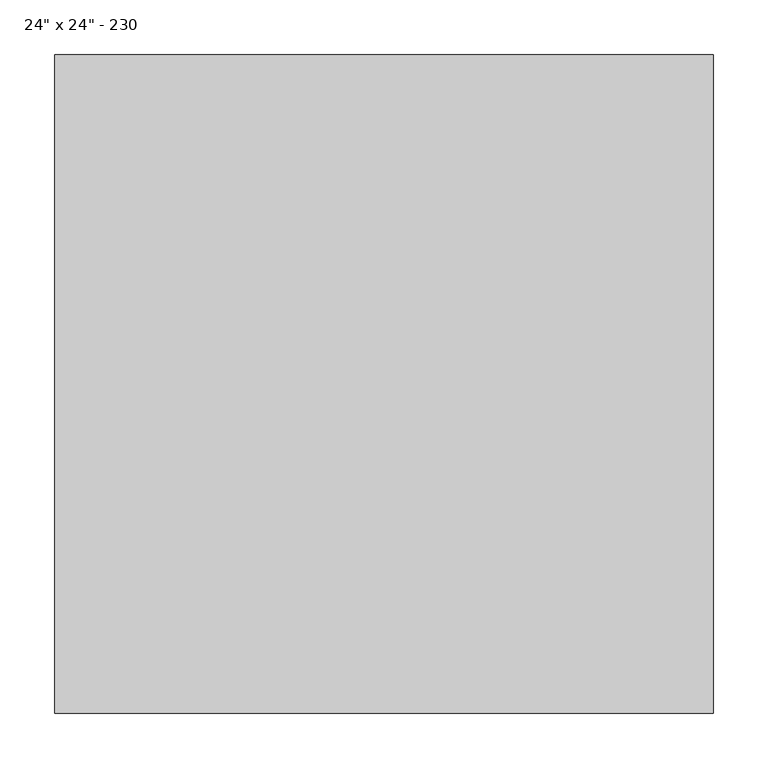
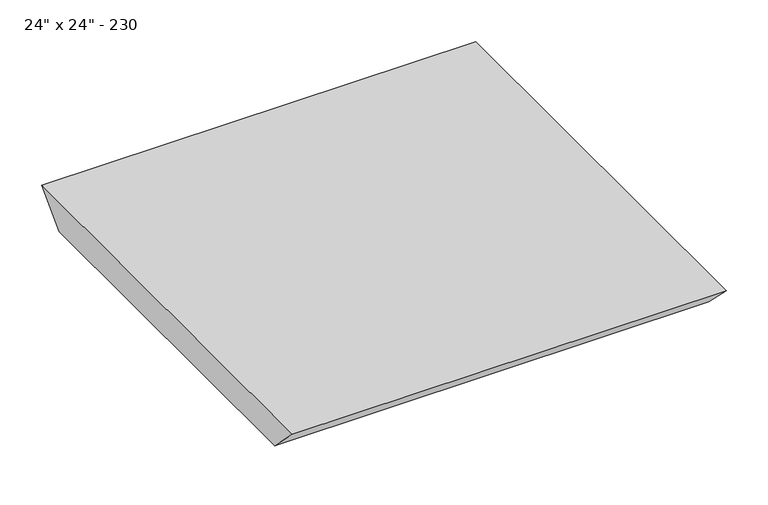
"""IFC4 building model written with IfcOpenShell, lengths in millimetres: light fixture geometry."""

import ifcopenshell
import ifcopenshell.guid

model = None  # the IFC model being written
_history = None  # IfcOwnerHistory: only IFC2X3 demands one
_inside = {}  # id of a spatial element -> (the spatial element, [elements in it])
_under = {}  # id of a project, library or spatial element -> (it, [spatial elements below it])
_declared = {}  # id of a project -> (the project, [libraries it declares])
_typed = {}  # id of a type object -> (the type object, [elements of that type])
_made_of = {}  # id of a material, layer set ... -> (it, [elements and type objects made of it])


def new_model(schema):
    """Start an empty IFC model of exactly this schema.

    Asked for "IFC4X3", IfcOpenShell would pick the latest addendum, in which some entities
    have other attributes; the version numbers below select the first issue.
    IFC2X3 requires an IfcOwnerHistory on every rooted entity: one is made here for all.
    """
    global model, _history
    if schema == "IFC4X3":
        model = ifcopenshell.file(schema_version=(4, 3, 0, 0))
    else:
        model = ifcopenshell.file(schema=schema)
    _inside.clear()
    _under.clear()
    _declared.clear()
    _typed.clear()
    _made_of.clear()
    _history = None
    if model.schema == "IFC2X3":
        org = make("IfcOrganization", Name="unknown")
        user = make(
            "IfcPersonAndOrganization",
            ThePerson=make("IfcPerson", FamilyName="unknown"),
            TheOrganization=org,
        )
        app = make(
            "IfcApplication",
            ApplicationDeveloper=org,
            Version="unknown",
            ApplicationFullName="unknown",
            ApplicationIdentifier="unknown",
        )
        _history = make(
            "IfcOwnerHistory",
            OwningUser=user,
            OwningApplication=app,
            ChangeAction="ADDED",
            CreationDate=0,
        )
    return model


def make(cls, **values):
    """One entity of the class cls with the attributes given. An attribute that is None is left unset."""
    return model.create_entity(
        cls, **{name: value for name, value in values.items() if value is not None}
    )


def rooted(cls, **values):
    """An entity with a GlobalId (a new one), such as an element, a storey or a relation."""
    return make(cls, GlobalId=ifcopenshell.guid.new(), OwnerHistory=_history, **values)


def si_unit(unit_type, name, prefix=None):
    """IfcSIUnit, for example si_unit("LENGTHUNIT", "METRE", prefix="MILLI")."""
    return make("IfcSIUnit", UnitType=unit_type, Prefix=prefix, Name=name)


def assignment(units):
    """IfcUnitAssignment: the units of a project."""
    return None if units is None else make("IfcUnitAssignment", Units=units)


def point(xyz):
    """IfcCartesianPoint."""
    return None if xyz is None else make("IfcCartesianPoint", Coordinates=xyz)


def direction(xyz):
    """IfcDirection."""
    return None if xyz is None else make("IfcDirection", DirectionRatios=xyz)


def frame(location, z_axis=None, x_axis=None):
    """IfcAxis2Placement3D, a coordinate frame: its origin and axes. An axis left out is left unset."""
    return make(
        "IfcAxis2Placement3D",
        Location=point(location),
        Axis=direction(z_axis),
        RefDirection=direction(x_axis),
    )


def origin():
    """The frame at (0, 0, 0) with its axes left unset."""
    return frame((0.0, 0.0, 0.0))


def place(relative_to, where):
    """IfcLocalPlacement: puts the frame where relative to a parent placement (None: the world)."""
    return make(
        "IfcLocalPlacement", PlacementRelTo=relative_to, RelativePlacement=where
    )


def context(
    kind, dimensions, precision=None, world=None, true_north=None, identifier=None
):
    """IfcGeometricRepresentationContext, for example the 3D "Model" context."""
    return make(
        "IfcGeometricRepresentationContext",
        ContextIdentifier=identifier,
        ContextType=kind,
        CoordinateSpaceDimension=dimensions,
        Precision=precision,
        WorldCoordinateSystem=world,
        TrueNorth=true_north,
    )


def project(units=None, contexts=None):
    """IfcProject with its units and contexts."""
    return rooted(
        "IfcProject",
        Name="project",
        RepresentationContexts=contexts,
        UnitsInContext=assignment(units),
    )


def spatial(cls, under=None, at=None, **own):
    """A site, building, storey or space (cls), placed at a placement, below another one or the project."""
    s = rooted(cls, ObjectPlacement=at, **own)
    if under is not None:
        _under.setdefault(under.id(), (under, []))[1].append(s)
    return s


def polyline(points):
    """IfcPolyline through the points."""
    return make("IfcPolyline", Points=[point(p) for p in points])


def outline(outer, holes=None, kind="AREA"):
    """IfcArbitraryClosedProfileDef: a profile drawn as a closed curve; with holes, ...WithVoids."""
    if holes is None:
        return make("IfcArbitraryClosedProfileDef", ProfileType=kind, OuterCurve=outer)
    return make(
        "IfcArbitraryProfileDefWithVoids",
        ProfileType=kind,
        OuterCurve=outer,
        InnerCurves=holes,
    )


def extrude(swept, where, along, depth):
    """IfcExtrudedAreaSolid: the profile swept, set in the frame where, extruded along a direction by depth."""
    return make(
        "IfcExtrudedAreaSolid",
        SweptArea=swept,
        Position=where,
        ExtrudedDirection=direction(along),
        Depth=depth,
    )


def shape(context_of_items, identifier, shape_type, items):
    """IfcShapeRepresentation: the items that make up one representation, for example the "Body"."""
    return make(
        "IfcShapeRepresentation",
        ContextOfItems=context_of_items,
        RepresentationIdentifier=identifier,
        RepresentationType=shape_type,
        Items=items,
    )


def source(mapping_origin, context_of_items, identifier, shape_type, items):
    """IfcRepresentationMap: a shape defined once, which mapped items show again and again."""
    return make(
        "IfcRepresentationMap",
        MappingOrigin=mapping_origin,
        MappedRepresentation=shape(context_of_items, identifier, shape_type, items),
    )


def transform(
    local_origin,
    x_axis=None,
    y_axis=None,
    z_axis=None,
    scale=None,
    scale2=None,
    scale3=None,
    uniform=True,
):
    """IfcCartesianTransformationOperator3D, or its non-uniform kind. x_axis, y_axis, z_axis: its Axis1, 2, 3."""
    if uniform:
        return make(
            "IfcCartesianTransformationOperator3D",
            Axis1=direction(x_axis),
            Axis2=direction(y_axis),
            LocalOrigin=point(local_origin),
            Scale=scale,
            Axis3=direction(z_axis),
        )
    return make(
        "IfcCartesianTransformationOperator3DnonUniform",
        Axis1=direction(x_axis),
        Axis2=direction(y_axis),
        LocalOrigin=point(local_origin),
        Scale=scale,
        Axis3=direction(z_axis),
        Scale2=scale2,
        Scale3=scale3,
    )


def mapped(mapping_source, mapping_target):
    """IfcMappedItem: shows the shape of a source again, moved by a transform."""
    return make(
        "IfcMappedItem", MappingSource=mapping_source, MappingTarget=mapping_target
    )


def made_of(thing, what):
    """Note that an element or type object is made of a material, layer set ...; save() writes the relation."""
    if what is not None:
        _made_of.setdefault(what.id(), (what, []))[1].append(thing)
    return thing


def element(
    cls,
    number,
    at=None,
    inside=None,
    cuts=None,
    type_object=None,
    material=None,
    context=None,
    identifier="Body",
    shape_type=None,
    held_by="IfcProductDefinitionShape",
    body=None,
    shapes=None,
    **own,
):
    """One element of the class cls, such as IfcWall. Its Tag is "e" and its number.

    at: its placement. inside: the storey or other place that contains it. cuts: it is an
    opening in that element (IfcRelVoidsElement). A single representation is given by context,
    identifier, shape_type and body (its items); several are given by shapes. held_by: the class
    of the entity that holds the representations. save() writes the other relations.
    """
    e = rooted(cls, Tag="e%d" % number, ObjectPlacement=at, **own)
    if body is not None:
        shapes = [shape(context, identifier, shape_type, body)]
    if shapes is not None:
        e.Representation = make(held_by, Representations=shapes)
    if inside is not None:
        _inside.setdefault(inside.id(), (inside, []))[1].append(e)
    if cuts is not None:
        rooted(
            "IfcRelVoidsElement", RelatingBuildingElement=cuts, RelatedOpeningElement=e
        )
    if type_object is not None:
        _typed.setdefault(type_object.id(), (type_object, []))[1].append(e)
    return made_of(e, material)


def aggregate(whole, parts):
    """IfcRelAggregates: a whole, such as a stair, and the parts it consists of."""
    return rooted("IfcRelAggregates", RelatingObject=whole, RelatedObjects=parts)


def save(model, path):
    """Write the relations noted so far, then the file.

    IfcRelAggregates (storeys below a building ...), IfcRelContainedInSpatialStructure (elements
    in a storey), IfcRelDefinesByType, IfcRelAssociatesMaterial and IfcRelDeclares: one each for
    every whole, place, type object, material and project.
    """
    for whole, parts in _under.values():
        aggregate(whole, parts)
    for where, things in _inside.values():
        rooted(
            "IfcRelContainedInSpatialStructure",
            RelatedElements=things,
            RelatingStructure=where,
        )
    for kind, things in _typed.values():
        rooted("IfcRelDefinesByType", RelatedObjects=things, RelatingType=kind)
    for what, things in _made_of.values():
        rooted("IfcRelAssociatesMaterial", RelatedObjects=things, RelatingMaterial=what)
    for by, libraries in _declared.values():
        rooted("IfcRelDeclares", RelatingContext=by, RelatedDefinitions=libraries)
    model.write(path)


def light_fixture_1c7c1157(model_context):
    return source(origin(), model_context, "Body", "SweptSolid", [
        extrude(outline(polyline([(-600.0, 0.0), (0.0, 0.0), (-42.0, -42.0), (-558.0, -42.0), (-600.0, 0.0)])), frame((0.0, 0.0, 0.0), z_axis=(1.0, 0.0, 0.0), x_axis=(0.0, 1.0, 0.0)), (0.0, 0.0, 1.0), 600.0),
    ])


if __name__ == "__main__":
    model = new_model("IFC4")
    model_context = context("Model", 3, world=origin())
    ifc_project = project(units=[si_unit("LENGTHUNIT", "METRE", prefix="MILLI")], contexts=[model_context])
    site = spatial("IfcSite", under=ifc_project)
    building = spatial("IfcBuilding", under=site)
    placement = place(None, origin())
    light_fixture_shape = light_fixture_1c7c1157(model_context)
    element("IfcLightFixture", 1, ObjectType="ELEKTRA Plain Recessed Lighting Fixture : 24\" x 24\" - 230", at=placement, inside=building, context=model_context, shape_type="MappedRepresentation", body=[
        mapped(light_fixture_shape, transform((0.0, 0.0, 0.0), x_axis=(1.0, 0.0, 0.0), y_axis=(0.0, 1.0, 0.0), z_axis=(0.0, 0.0, 1.0))),
    ])
    save(model, "model.ifc")
